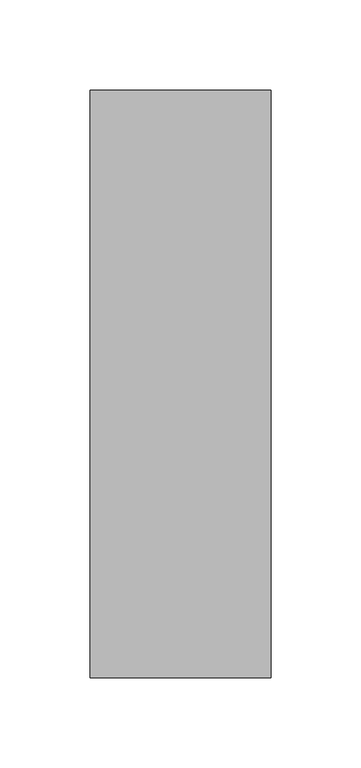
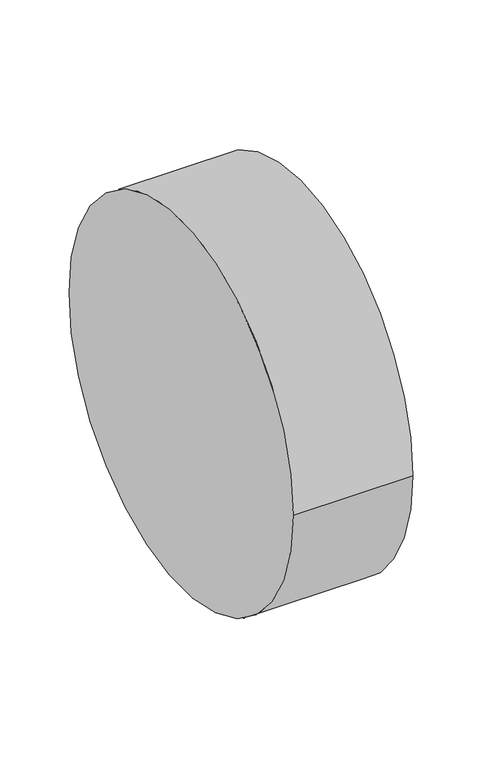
"""IFC4 building model written with IfcOpenShell, lengths in millimetres: pipe fitting geometry, ADSK_ДетальСтальнаяСварная_Заглушка_ГОСТ17379-2001 : Исполнение 2."""

from ifc_helpers import new_model, si_unit, point, frame, origin, origin_2d, place, context, project, spatial, circle_curve, trimmed, segment, composite_curve, outline, extrude, source, transform, mapped, element, save


def pipe_fitting_9a6c9148(model_context):
    return source(origin(), model_context, "Body", "SweptSolid", [
        extrude(outline(composite_curve([segment(trimmed(circle_curve(origin_2d(), 162.5), [point((-162.5, 0.0))], [point((162.5, 0.0))], False, "CARTESIAN"), True, "CONTINUOUS"), segment(trimmed(circle_curve(origin_2d(), 162.5), [point((162.5, 0.0))], [point((-162.5, 0.0))], False, "CARTESIAN"), True, "CONTINUOUS")], self_intersect=False)), frame((0.0, 0.0, 0.0), z_axis=(1.0, 0.0, 0.0), x_axis=(0.0, 1.0, 0.0)), (0.0, 0.0, 1.0), 100.0),
    ])


if __name__ == "__main__":
    model = new_model("IFC4")
    model_context = context("Model", 3, world=origin())
    ifc_project = project(units=[si_unit("LENGTHUNIT", "METRE", prefix="MILLI")], contexts=[model_context])
    site = spatial("IfcSite", under=ifc_project)
    building = spatial("IfcBuilding", under=site)
    placement = place(None, origin())
    pipe_fitting_shape = pipe_fitting_9a6c9148(model_context)
    element("IfcPipeFitting", 1, ObjectType="ADSK_ДетальСтальнаяСварная_Заглушка_ГОСТ17379-2001 : Исполнение 2", at=placement, inside=building, context=model_context, shape_type="MappedRepresentation", body=[
        mapped(pipe_fitting_shape, transform((0.0, 0.0, 0.0), x_axis=(1.0, 0.0, 0.0), y_axis=(0.0, 1.0, 0.0), z_axis=(0.0, 0.0, 1.0))),
    ])
    save(model, "model.ifc")
